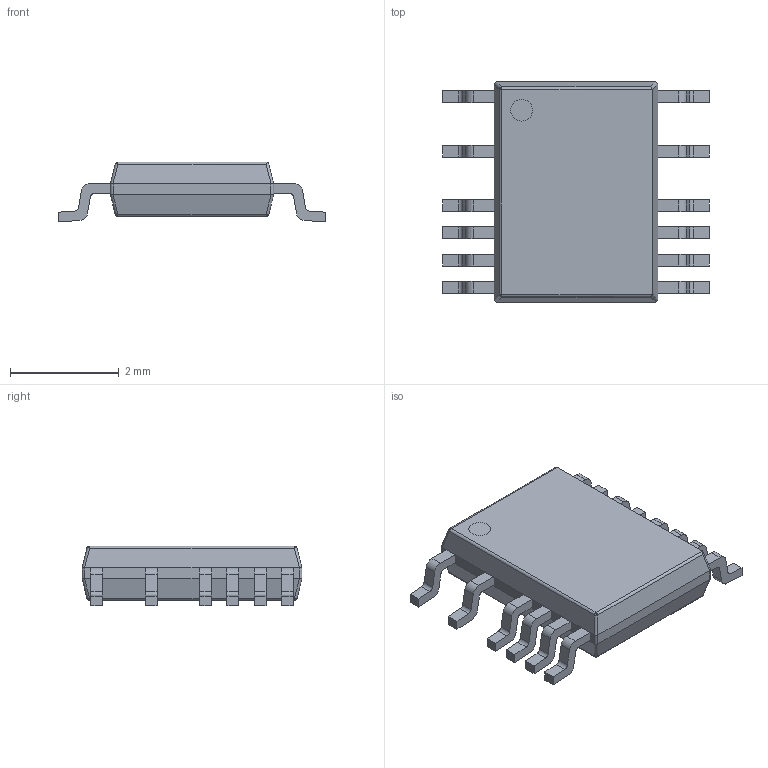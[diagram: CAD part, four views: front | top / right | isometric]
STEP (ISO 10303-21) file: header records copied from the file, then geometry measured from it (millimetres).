
FILE_DESCRIPTION (( 'STEP AP214' ), '1' );
FILE_NAME ('LTC3639HMSE#PBF.STEP', '2025-01-07T08:53:26', ( '' ), ( '' ), 'SwSTEP 2.0', 'SolidWorks 2023', '' );
FILE_SCHEMA (( 'AUTOMOTIVE_DESIGN' ));
Length unit declared in the file: millimetre
Products named in the file (1): LTC3639HMSE#PBF
Bounding box: 4.9 x 4.04 x 1.1 mm (x, y, z)
Volume: 12.4 mm3; surface area: 62.7 mm2
Topology: 15 solids, 15 shells, 239 faces, 626 edges, 405 vertices
Faces by surface type: plane 158, cylinder 69, bspline 12
Entity records: 10152 total; most frequent: CARTESIAN_POINT 1523, ORIENTED_EDGE 1228, DIRECTION 1184, EDGE_CURVE 614, VECTOR 444, LINE 444, VERTEX_POINT 405, AXIS2_PLACEMENT_3D 370
